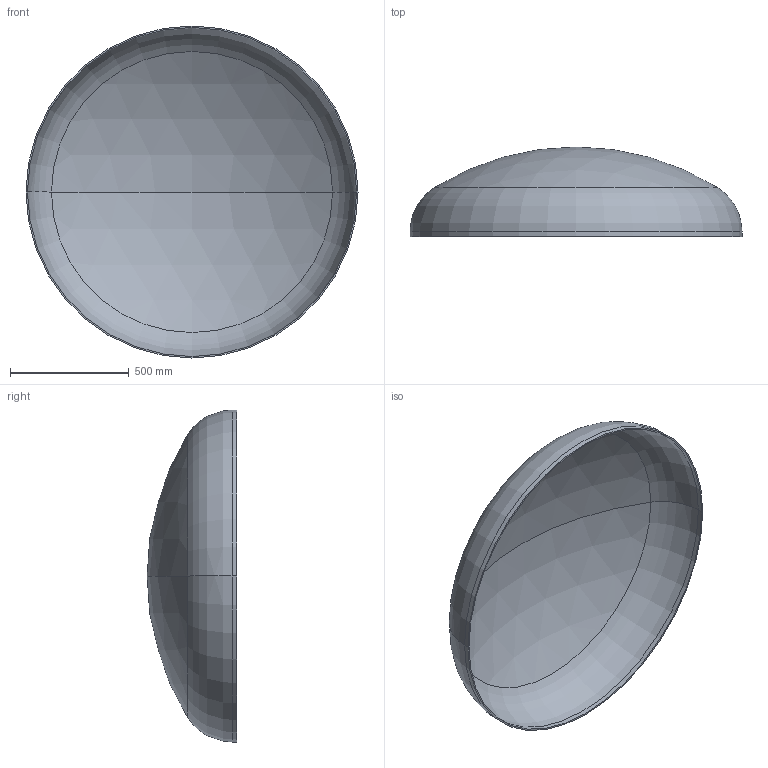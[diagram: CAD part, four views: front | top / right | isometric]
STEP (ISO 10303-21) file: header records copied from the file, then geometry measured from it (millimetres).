
FILE_DESCRIPTION (( 'STEP AP203' ), '1' );
FILE_NAME ('DIN 28013 Korbbogenform_-_Boden DIN 28013 - 1400 x 20 - I - s=6.step', '2016-07-01T10:06:06', ( '' ), ( '' ), 'SwSTEP 2.0', 'SolidWorks 2013', '' );
FILE_SCHEMA (( 'CONFIG_CONTROL_DESIGN' ));
Length unit declared in the file: millimetre
Products named in the file (1): DIN 28013 Korbbogenform_-_Boden DIN 28013 - 1400 x 20 - I - s=6
Bounding box: 1400 x 378.16 x 1400 mm (x, y, z)
Volume: 13239072 mm3; surface area: 4439373.9 mm2
Topology: 1 solids, 1 shells, 13 faces, 24 edges, 14 vertices
Faces by surface type: torus 4, cylinder 4, sphere 4, plane 1
Entity records: 407 total; most frequent: DIRECTION 72, CARTESIAN_POINT 52, ORIENTED_EDGE 48, AXIS2_PLACEMENT_3D 34, EDGE_CURVE 24, CIRCLE 20, VERTEX_POINT 14, EDGE_LOOP 14
